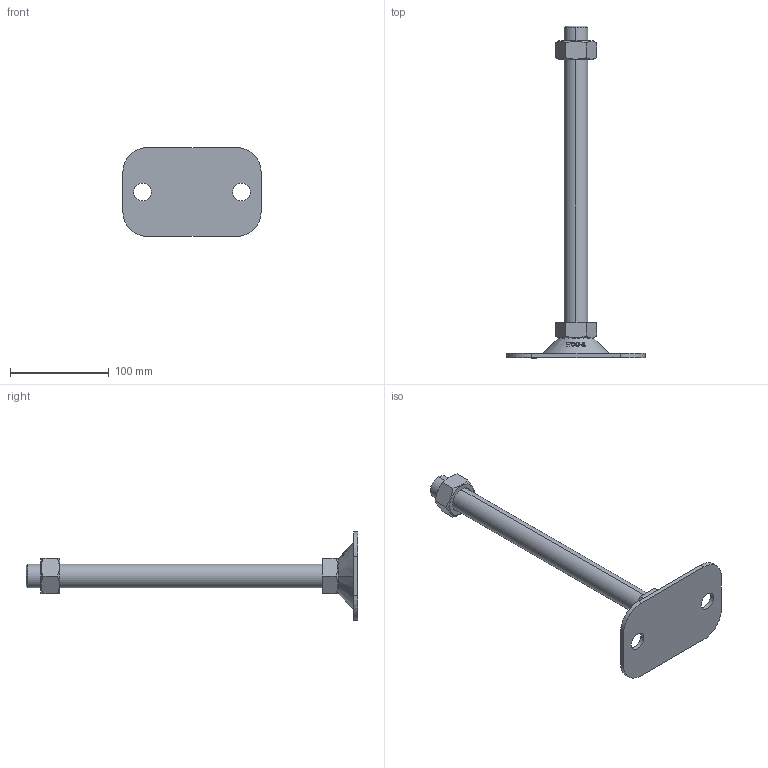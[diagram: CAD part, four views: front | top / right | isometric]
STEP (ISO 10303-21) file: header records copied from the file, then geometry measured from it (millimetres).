
FILE_DESCRIPTION (( 'STEP AP214' ), '1' );
FILE_NAME ('FABL90140-M24-300.step', '2021-03-28T23:54:30', ( '' ), ( '' ), 'SwSTEP 2.0', 'SolidWorks 2019', '' );
FILE_SCHEMA (( 'AUTOMOTIVE_DESIGN' ));
Length unit declared in the file: millimetre
Products named in the file (2): FABL90140-M24-300
Bounding box: 140 x 336 x 90 mm (x, y, z)
Volume: 251269.9 mm3; surface area: 56272.7 mm2
Topology: 2 solids, 2 shells, 130 faces, 333 edges, 218 vertices
Faces by surface type: plane 50, cylinder 40, cone 22, bspline 18
Entity records: 5607 total; most frequent: CARTESIAN_POINT 2649, ORIENTED_EDGE 666, DIRECTION 485, EDGE_CURVE 333, VERTEX_POINT 218, AXIS2_PLACEMENT_3D 178, EDGE_LOOP 147, B_SPLINE_CURVE_WITH_KNOTS 140
